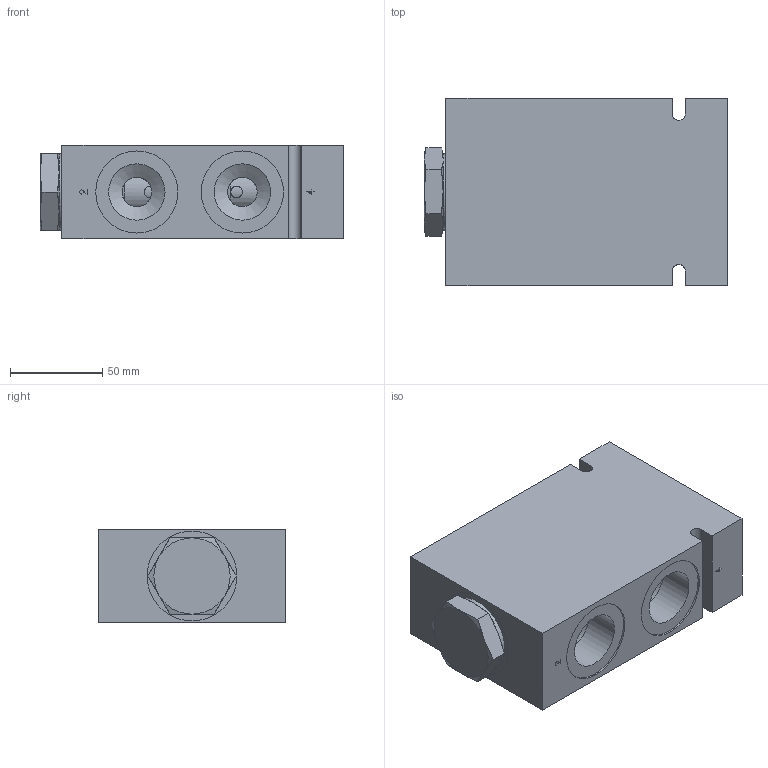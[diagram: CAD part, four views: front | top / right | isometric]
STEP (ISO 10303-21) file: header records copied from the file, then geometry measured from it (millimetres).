
FILE_DESCRIPTION( ( 'Unknown' ), '1' );
FILE_NAME( 'G:/Graphic Design/Graphic Design 2/Data Sheets/MANUAL_MECH OPERATED VALVES/4_STEP/Pilot to Shift Valves/D-SOPTS00-E5.stp', 'Unknown', ( 'Unknown' ), ( 'Unknown' ), 'PSStep 16.0.42', 'Unknown', ' ' );
FILE_SCHEMA( ( 'AUTOMOTIVE_DESIGN { 1 0 10303 214 1 1 1 1 }' ) );
Length unit declared in the file: millimetre
Products named in the file (17): SOPTS00; SOPTS00-3D Full1; SOPTS00-3D Full2; SOPTS00-3D Full3; SOPTS00-3D Full4; SOPTS00-3D Full5; SOPTS00-3D Full6; SOPTS00-3D Full7; SOPTS00-3D Full8; SOPTS00-3D Full9; SOPTS00-3D Full10; SOPTS00-3D Full11; SOPTS00-3D Full12; SOPTS00-3D Full13; SOPTS00-3D Full14; Assem1; B-DSOE5
Assembly tree (16 placements, depth 3):
  Assem1
    B-DSOE5
    SOPTS00
      SOPTS00-3D Full1
      SOPTS00-3D Full2
      SOPTS00-3D Full3
      SOPTS00-3D Full4
      SOPTS00-3D Full5
      SOPTS00-3D Full6
      SOPTS00-3D Full7
      SOPTS00-3D Full8
      SOPTS00-3D Full9
      SOPTS00-3D Full10
      SOPTS00-3D Full11
      SOPTS00-3D Full12
      SOPTS00-3D Full13
      SOPTS00-3D Full14
Bounding box: 164.1 x 101.6 x 50.8 mm (x, y, z)
Surface area: 106435.9 mm2 (no closed solid volume)
Topology: 0 solids, 340 shells, 340 faces, 1429 edges, 1296 vertices
Faces by surface type: plane 180, cylinder 107, cone 47, torus 6
Full cylindrical faces by diameter (mm): 0.2 x5, 1.6 x1, 6.3 x1, 6.35 x18, 11.5 x2, 15.883 x1, 16 x3, 20.93 x1, 20.993 x2, 22.22 x1, 22.225 x1, 22.504 x1, 22.568 x2, 23.825 x1, 24 x1, 24.105 x1, 24.168 x2, 25.311 x2, 25.349 x2, 25.4 x2, 25.476 x1, 25.667 x1, 25.73 x2, 26.886 x2, 26.924 x2, 27.051 x1, 27.14 x1, 28.486 x2, 28.524 x2, 28.651 x1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
Entity records: 20998 total; most frequent: CARTESIAN_POINT 8633, DIRECTION 1686, VERTEX_POINT 1251, ORIENTED_EDGE 1246, EDGE_CURVE 1246, AXIS2_PLACEMENT_3D 692, B_SPLINE_CURVE_WITH_KNOTS 562, FACE_BOUND 533
